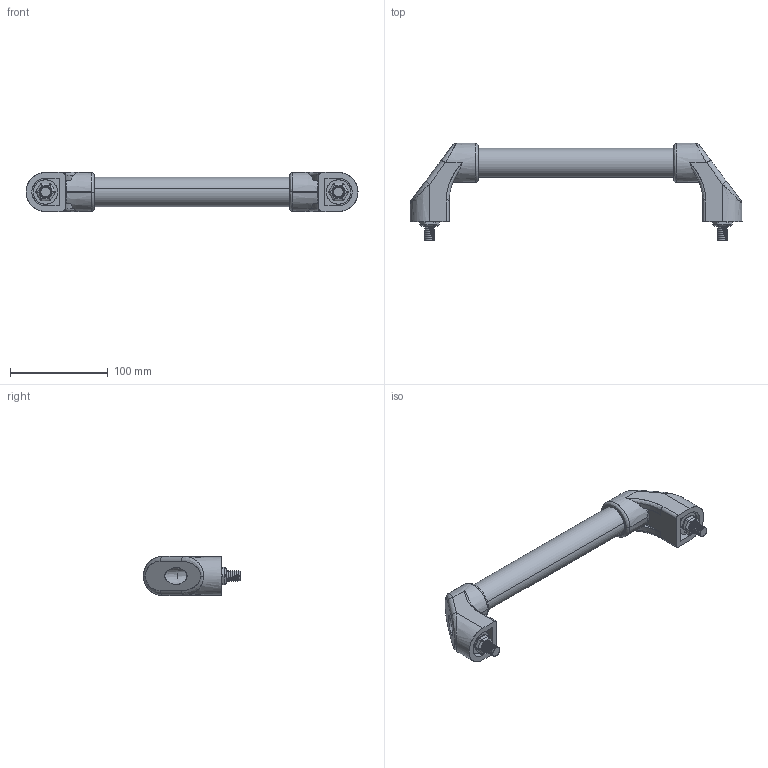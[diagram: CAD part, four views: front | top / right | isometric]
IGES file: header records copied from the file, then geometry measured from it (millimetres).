
Start section: SolidWorks IGES file using analytic representation for surfaces
Global section: file name: C:\Documents and Settings\Deathkiller\桌面\3D IGES\U型把手\MS-737-1-A\p=300.IGS; native system: SolidWorks 2006 by SolidWorks Corporation; preprocessor: SolidWorks 2006 by SolidWorks Corporation; author: Deathkiller; date: 080624.104527; units: millimetre
Bounding box: 340 x 99.5 x 40 mm (x, y, z)
Surface area: 92151.7 mm2 (no closed solid volume)
Topology: 0 solids, 0 shells, 318 faces, 6130 edges, 6114 vertices
Faces by surface type: revolution 210, bspline 108
